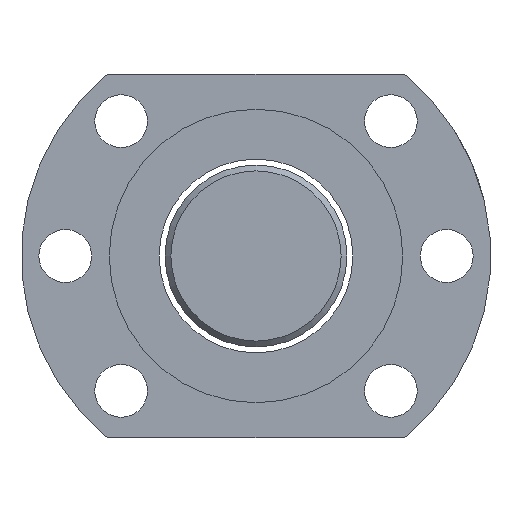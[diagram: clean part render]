
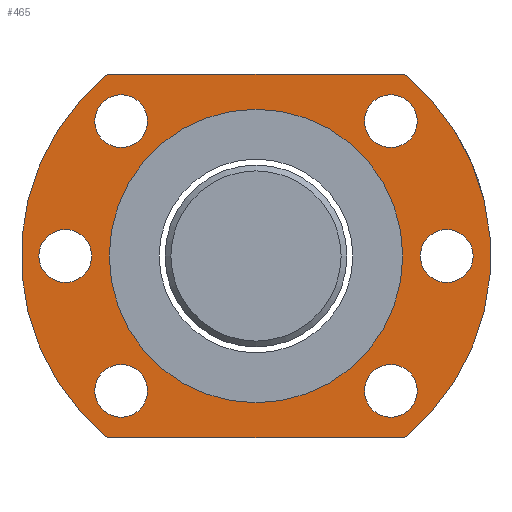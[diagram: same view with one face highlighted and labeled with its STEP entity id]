
A CAD part, left-side view. The second image highlights one B-rep face of the part: STEP entity #465.
In plain terms, the highlighted planar face has unit normal (-1, 0, 0).
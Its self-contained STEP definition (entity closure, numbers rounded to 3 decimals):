
#59=PLANE('',#541);
#76=LINE('',#783,#84);
#79=LINE('',#789,#87);
#84=VECTOR('',#630,1000.);
#87=VECTOR('',#635,1000.);
#125=ORIENTED_EDGE('',*,*,#202,.T.);
#126=ORIENTED_EDGE('',*,*,#206,.T.);
#127=ORIENTED_EDGE('',*,*,#208,.F.);
#128=ORIENTED_EDGE('',*,*,#210,.F.);
#129=ORIENTED_EDGE('',*,*,#212,.F.);
#130=ORIENTED_EDGE('',*,*,#219,.T.);
#131=ORIENTED_EDGE('',*,*,#216,.T.);
#132=ORIENTED_EDGE('',*,*,#190,.T.);
#133=ORIENTED_EDGE('',*,*,#213,.T.);
#134=ORIENTED_EDGE('',*,*,#221,.F.);
#135=ORIENTED_EDGE('',*,*,#204,.T.);
#190=EDGE_CURVE('',#240,#241,#281,.T.);
#202=EDGE_CURVE('',#252,#252,#287,.T.);
#204=EDGE_CURVE('',#254,#254,#289,.T.);
#206=EDGE_CURVE('',#256,#256,#291,.T.);
#208=EDGE_CURVE('',#258,#258,#293,.T.);
#210=EDGE_CURVE('',#260,#260,#295,.T.);
#212=EDGE_CURVE('',#262,#262,#297,.T.);
#213=EDGE_CURVE('',#241,#263,#76,.T.);
#216=EDGE_CURVE('',#265,#240,#79,.T.);
#219=EDGE_CURVE('',#263,#265,#298,.T.);
#221=EDGE_CURVE('',#267,#267,#300,.T.);
#240=VERTEX_POINT('',#711);
#241=VERTEX_POINT('',#712);
#252=VERTEX_POINT('',#756);
#254=VERTEX_POINT('',#761);
#256=VERTEX_POINT('',#766);
#258=VERTEX_POINT('',#771);
#260=VERTEX_POINT('',#776);
#262=VERTEX_POINT('',#781);
#263=VERTEX_POINT('',#784);
#265=VERTEX_POINT('',#790);
#267=VERTEX_POINT('',#799);
#281=CIRCLE('',#512,40.);
#287=CIRCLE('',#520,4.5);
#289=CIRCLE('',#523,4.5);
#291=CIRCLE('',#526,4.5);
#293=CIRCLE('',#529,4.5);
#295=CIRCLE('',#532,4.5);
#297=CIRCLE('',#535,4.5);
#298=CIRCLE('',#539,40.);
#300=CIRCLE('',#542,25.);
#331=EDGE_LOOP('',(#125));
#332=EDGE_LOOP('',(#126));
#333=EDGE_LOOP('',(#127));
#334=EDGE_LOOP('',(#128));
#335=EDGE_LOOP('',(#129));
#336=EDGE_LOOP('',(#130,#131,#132,#133));
#337=EDGE_LOOP('',(#134));
#338=EDGE_LOOP('',(#135));
#394=FACE_BOUND('',#331,.T.);
#395=FACE_BOUND('',#332,.T.);
#396=FACE_BOUND('',#333,.T.);
#397=FACE_BOUND('',#334,.T.);
#398=FACE_BOUND('',#335,.T.);
#399=FACE_BOUND('',#336,.T.);
#400=FACE_BOUND('',#337,.T.);
#401=FACE_BOUND('',#338,.T.);
#465=ADVANCED_FACE('',(#394,#395,#396,#397,#398,#399,#400,#401),#59,.T.);
#512=AXIS2_PLACEMENT_3D('',#710,#578,#579);
#520=AXIS2_PLACEMENT_3D('',#755,#596,#597);
#523=AXIS2_PLACEMENT_3D('',#760,#602,#603);
#526=AXIS2_PLACEMENT_3D('',#765,#608,#609);
#529=AXIS2_PLACEMENT_3D('',#770,#614,#615);
#532=AXIS2_PLACEMENT_3D('',#775,#620,#621);
#535=AXIS2_PLACEMENT_3D('',#780,#626,#627);
#539=AXIS2_PLACEMENT_3D('',#795,#640,#641);
#541=AXIS2_PLACEMENT_3D('',#797,#644,#645);
#542=AXIS2_PLACEMENT_3D('',#798,#646,#647);
#578=DIRECTION('',(-1.,0.,0.));
#579=DIRECTION('',(0.,0.,-1.));
#596=DIRECTION('',(1.,0.,0.));
#597=DIRECTION('',(0.,0.,1.));
#602=DIRECTION('',(1.,0.,0.));
#603=DIRECTION('',(0.,0.,1.));
#608=DIRECTION('',(1.,0.,0.));
#609=DIRECTION('',(0.,0.,1.));
#614=DIRECTION('',(-1.,0.,0.));
#615=DIRECTION('',(0.,0.,1.));
#620=DIRECTION('',(-1.,0.,0.));
#621=DIRECTION('',(0.,0.,1.));
#626=DIRECTION('',(-1.,0.,0.));
#627=DIRECTION('',(0.,0.,1.));
#630=DIRECTION('',(0.,1.,0.));
#635=DIRECTION('',(0.,-1.,0.));
#640=DIRECTION('',(-1.,0.,0.));
#641=DIRECTION('',(0.,0.,-1.));
#644=DIRECTION('',(-1.,0.,0.));
#645=DIRECTION('',(0.,0.,-1.));
#646=DIRECTION('',(-1.,0.,0.));
#647=DIRECTION('',(0.,0.,-1.));
#710=CARTESIAN_POINT('',(-57.175,-48.743,-3.875));
#711=CARTESIAN_POINT('',(-57.175,-74.021,-34.875));
#712=CARTESIAN_POINT('',(-57.175,-74.021,27.125));
#755=CARTESIAN_POINT('',(-57.175,-71.724,19.106));
#756=CARTESIAN_POINT('',(-57.175,-71.724,23.606));
#760=CARTESIAN_POINT('',(-57.175,-81.243,-3.875));
#761=CARTESIAN_POINT('',(-57.175,-81.243,0.625));
#765=CARTESIAN_POINT('',(-57.175,-71.724,-26.856));
#766=CARTESIAN_POINT('',(-57.175,-71.724,-22.356));
#770=CARTESIAN_POINT('',(-57.175,-25.762,-26.856));
#771=CARTESIAN_POINT('',(-57.175,-25.762,-22.356));
#775=CARTESIAN_POINT('',(-57.175,-25.762,19.106));
#776=CARTESIAN_POINT('',(-57.175,-25.762,23.606));
#780=CARTESIAN_POINT('',(-57.175,-16.243,-3.875));
#781=CARTESIAN_POINT('',(-57.175,-16.243,0.625));
#783=CARTESIAN_POINT('',(-57.175,-74.021,27.125));
#784=CARTESIAN_POINT('',(-57.175,-23.464,27.125));
#789=CARTESIAN_POINT('',(-57.175,-23.464,-34.875));
#790=CARTESIAN_POINT('',(-57.175,-23.464,-34.875));
#795=CARTESIAN_POINT('',(-57.175,-48.743,-3.875));
#797=CARTESIAN_POINT('',(-57.175,-48.743,-3.875));
#798=CARTESIAN_POINT('',(-57.175,-48.743,-3.875));
#799=CARTESIAN_POINT('',(-57.175,-48.743,-28.875));
